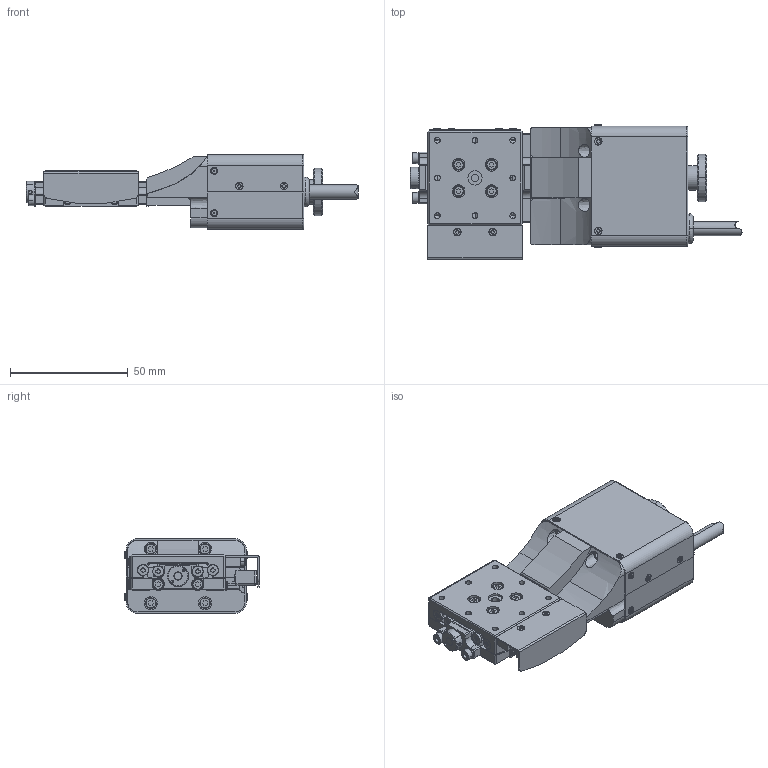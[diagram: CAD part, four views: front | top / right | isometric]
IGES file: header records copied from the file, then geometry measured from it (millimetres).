
Global section: file name: No Iges File Name specified; native system: AutoDesk Inventor R12.0; preprocessor: AutoDesk Inventor Iges Exporter R12.0; date: 20140325.112027; units: millimetre
Bounding box: 140.9 x 57.1 x 31.6 mm (x, y, z)
Volume: 79603.4 mm3; surface area: 52209.3 mm2
Topology: 74 solids, 95 shells, 2509 faces, 6281 edges, 3943 vertices
Faces by surface type: plane 1156, bspline 443, cylinder 380, revolution 234, cone 202, torus 48, sphere 46
Full cylindrical faces by diameter (mm): 12 x1
